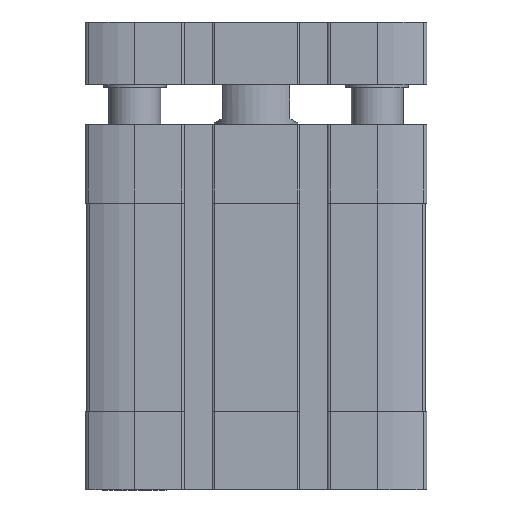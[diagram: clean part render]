
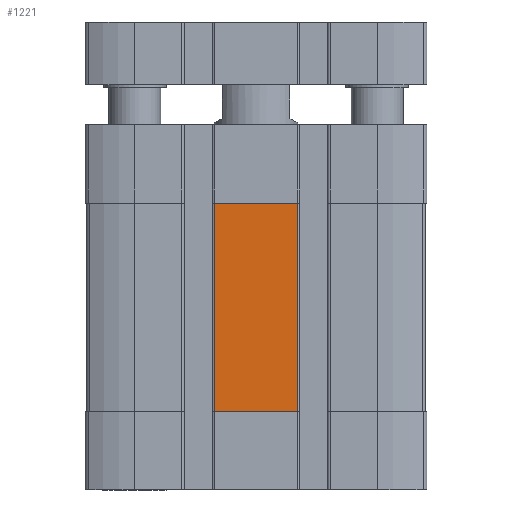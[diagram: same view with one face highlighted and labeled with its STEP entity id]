
A CAD part, left-side view. The second image highlights one B-rep face of the part: STEP entity #1221.
In plain terms, the highlighted planar face has unit normal (-1, 0, 0) as drawn and (0, 1, 0) by its records, which use the part's own axes.
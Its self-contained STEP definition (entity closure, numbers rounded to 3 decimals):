
#470 = VECTOR ( 'NONE', #12091, 1000. ) ;
#611 = EDGE_CURVE ( 'NONE', #15009, #21893, #19146, .T. ) ;
#683 = VECTOR ( 'NONE', #4213, 1000. ) ;
#1027 = CARTESIAN_POINT ( 'NONE',  ( 8., 32.5, -55. ) ) ;
#1221 = ADVANCED_FACE ( 'NONE', ( #2091 ), #15290, .T. ) ;
#1250 = LINE ( 'NONE', #20194, #683 ) ;
#2091 = FACE_OUTER_BOUND ( 'NONE', #14446, .T. ) ;
#3047 = ORIENTED_EDGE ( 'NONE', *, *, #611, .T. ) ;
#3144 = CARTESIAN_POINT ( 'NONE',  ( 0., 32.5, -15. ) ) ;
#3522 = AXIS2_PLACEMENT_3D ( 'NONE', #1027, #4624, #17086 ) ;
#4213 = DIRECTION ( 'NONE',  ( -1., 0., 0. ) ) ;
#4522 = ORIENTED_EDGE ( 'NONE', *, *, #22436, .T. ) ;
#4624 = DIRECTION ( 'NONE',  ( 0., 1., 0. ) ) ;
#5162 = DIRECTION ( 'NONE',  ( 0., 0., -1. ) ) ;
#6557 = EDGE_CURVE ( 'NONE', #21893, #14263, #1250, .T. ) ;
#7037 = CARTESIAN_POINT ( 'NONE',  ( 8., 32.5, -15. ) ) ;
#8221 = CARTESIAN_POINT ( 'NONE',  ( -8., 32.5, -55. ) ) ;
#9634 = VECTOR ( 'NONE', #5162, 1000. ) ;
#10298 = DIRECTION ( 'NONE',  ( 1., 0., 0. ) ) ;
#10530 = LINE ( 'NONE', #13887, #470 ) ;
#12091 = DIRECTION ( 'NONE',  ( 0., 0., 1. ) ) ;
#13887 = CARTESIAN_POINT ( 'NONE',  ( -8., 32.5, -55. ) ) ;
#14263 = VERTEX_POINT ( 'NONE', #8221 ) ;
#14446 = EDGE_LOOP ( 'NONE', ( #17984, #17949, #4522, #3047 ) ) ;
#15009 = VERTEX_POINT ( 'NONE', #7037 ) ;
#15290 = PLANE ( 'NONE',  #3522 ) ;
#15840 = CARTESIAN_POINT ( 'NONE',  ( 8., 32.5, -55. ) ) ;
#17086 = DIRECTION ( 'NONE',  ( 0., 0., 1. ) ) ;
#17645 = CARTESIAN_POINT ( 'NONE',  ( -8., 32.5, -15. ) ) ;
#17949 = ORIENTED_EDGE ( 'NONE', *, *, #18069, .T. ) ;
#17984 = ORIENTED_EDGE ( 'NONE', *, *, #6557, .T. ) ;
#18069 = EDGE_CURVE ( 'NONE', #14263, #22522, #10530, .T. ) ;
#19146 = LINE ( 'NONE', #15840, #9634 ) ;
#20194 = CARTESIAN_POINT ( 'NONE',  ( 8., 32.5, -55. ) ) ;
#21732 = VECTOR ( 'NONE', #10298, 1000. ) ;
#21893 = VERTEX_POINT ( 'NONE', #22471 ) ;
#22436 = EDGE_CURVE ( 'NONE', #22522, #15009, #22864, .T. ) ;
#22471 = CARTESIAN_POINT ( 'NONE',  ( 8., 32.5, -55. ) ) ;
#22522 = VERTEX_POINT ( 'NONE', #17645 ) ;
#22864 = LINE ( 'NONE', #3144, #21732 ) ;
